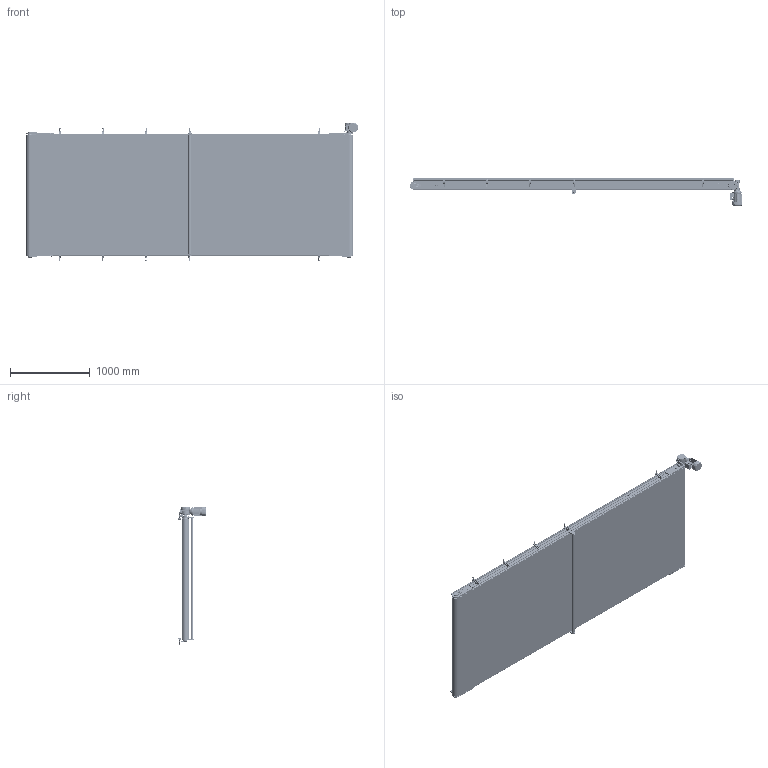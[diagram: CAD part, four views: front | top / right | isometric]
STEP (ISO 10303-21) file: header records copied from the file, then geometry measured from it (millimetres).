
FILE_DESCRIPTION (( 'STEP AP214' ), '1' );
FILE_NAME ('NASTRO_RETTILINEO_TAPPETO.step', '2026-05-11T06:39:50', ( 'Utente Windows' ), ( '' ), 'SwSTEP 2.0', 'SolidWorks 2024', '' );
FILE_SCHEMA (( 'AUTOMOTIVE_DESIGN' ));
Length unit declared in the file: millimetre
Products named in the file (56): BLOCCO_RINVIO_95_STANDARD_CON TENDINASTRO E CARTER; 084.802.067_Default<A macchina>; VITI TE UNI 5739_M8x12 UNI 5739; CH05P_DX; 084.711.006_PER CAVA 8 PERNO ALTO 1; VITI TE UNI 5739_M6x12 UNI 5739; DADI ESAGONALI NORMALI UNI 5588_M6 UNI 5588; BLOCCO_TRAINO_95_STANDARD_49_DX_CON TENDINASTRO E SENZA CARTER; 084.711.006_L2; 084.803.017; VITI TSEI UNI 5933_M5x12 UNI 5933; 084.802.071; 084.802.062; 084.802.028; 084.301.000 VITI ALUSIC_084.301.003; 084.802.017_084.802.017; TELAIO_95_CINGHIE_Default<A macchina>; 084.711.006_L1; 084.302.000 DADI ALUSIC 13x13-1_084.302.007; 084.802.013-2; VITI TCEI UNI 5931_M4x25 UNI 5931; 084.808.013; 084.302.000 DADI ALUSIC 13x13-1_084.302.004; DADO ESAGONALE M30 AUTOBLOCCANTE UNI 7473_M30 UNI 7473; BLOCCO_TRAINO_95_STANDARD_CON TENDINASTRO E CARTER; PERNO_95_TRAINO_CINGHIE_49_DX_Default<A macchina>; 084.711.010; 084.802.019_084.802.019; 084.802.014; VITI TCEI UNI 5931_M6x12 UNI 5931; GUIDA_CINGHIA_Z_95; 449.014.106; VITE_DADO_M5X12; 084.711.007; 084.802.060_Default<A macchina>; SPONDA_Default<A macchina>; LAMIERA_STANDARD; 084.802.034_084.802.034; 084.302.060; PERNO_95_RINVIO_CINGHIE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
Assembly tree (168 placements, depth 4):
  NASTRO_RETTILINEO_TAPPETO
    TAPPETO_STANDARD_CINGHIE
    TELAIO_95_CINGHIE_Default<A macchina>
    LAMIERA_STANDARD  x2
    RULLO_95_CINGHIE_Default<A macchina>  x2
    PERNO_95_TRAINO_CINGHIE_49_DX_Default<A macchina>
    BLOCCO_TRAINO_95_STANDARD_49_DX_CON TENDINASTRO E SENZA CARTER
      084.808.003_084.808.003
      084.302.060  x2
      084.802.034_084.802.034
      084.301.000 VITI ALUSIC_084.301.003  x6
      084.802.067_Default<A macchina>
      VITI TCEI UNI 5931_M4x25 UNI 5931  x2
      BLOCCO_BRACCIO_CH05P_CH05P
        084.808.013
        084.802.062
        084.802.060_Default<A macchina>
        VITI TE UNI 5739_M8x12 UNI 5739  x4
        VITI TE UNI 5739_M6x12 UNI 5739  x4
        084.803.017
        VITI TCEI UNI 5931_M6x12 UNI 5931  x4
    BLOCCO_TRAINO_95_STANDARD_CON TENDINASTRO E CARTER
      084.808.002_084.808.002
      084.302.060  x2
      084.802.019_084.802.019
      084.301.000 VITI ALUSIC_084.301.003  x6
      VITI TCEI UNI 5931_M4x25 UNI 5931  x2
      084.802.071
      084.802.068
      VITI TSEI UNI 5933_M4x12 UNI 5933  x2
    GUIDA_CINGHIA_Z_95  x6
      449.014.106
      DADO ESAGONALE M30 AUTOBLOCCANTE UNI 7473_M30 UNI 7473
    PERNO_95_RINVIO_CINGHIE
    BLOCCO_RINVIO_95_STANDARD_CON TENDINASTRO E CARTER  x2
      084.808.002_084.808.002
      084.803.003
      084.302.060
      084.802.019_084.802.019
      VITI TSEI UNI 5933_M4x12 UNI 5933
      084.302.000 DADI ALUSIC 13x13-1_084.302.004
      084.301.000 VITI ALUSIC_084.301.003
      084.802.071
    SPONDA_Default<A macchina>  x2
    084.711.006_PER CAVA 8 PERNO ALTO 1  x10
      084.711.006_L1
      084.711.006_L2
      084.711.007
      084.711.005
      084.711.010
      DADI ESAGONALI NORMALI UNI 5588_M6 UNI 5588
    084.712.002  x4
    VITE_RONDELLA_M8X20  x25
      084.303.001
      084.301.000 VITI ALUSIC_084.301.003
    VITE_DADO_M5X12  x16
      084.302.000 DADI ALUSIC 13x13-1_084.302.007
      VITI TSEI UNI 5933_M5x12 UNI 5933
    BLOCCO_REGGITAPPETO  x2
      084.301.000 VITI ALUSIC_084.301.003
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Bounding box: 4159.8 x 343.5 x 1734.63 mm (x, y, z)
Volume: 77734736.9 mm3; surface area: 58498811.2 mm2
Topology: 310 solids, 315 shells, 13692 faces, 34498 edges, 21515 vertices
Faces by surface type: plane 6320, cylinder 4001, cone 1220, bspline 1151, torus 816, sphere 184
Entity records: 235885 total; most frequent: CARTESIAN_POINT 81196, ORIENTED_EDGE 33266, DIRECTION 30495, EDGE_CURVE 16633, AXIS2_PLACEMENT_3D 10753, VERTEX_POINT 10541, VECTOR 8989, LINE 8989
